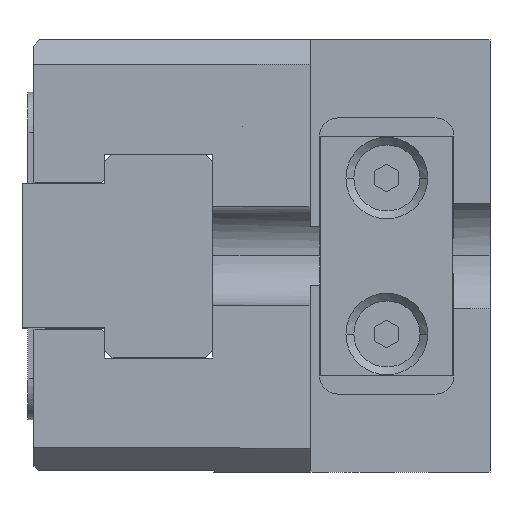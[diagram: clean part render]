
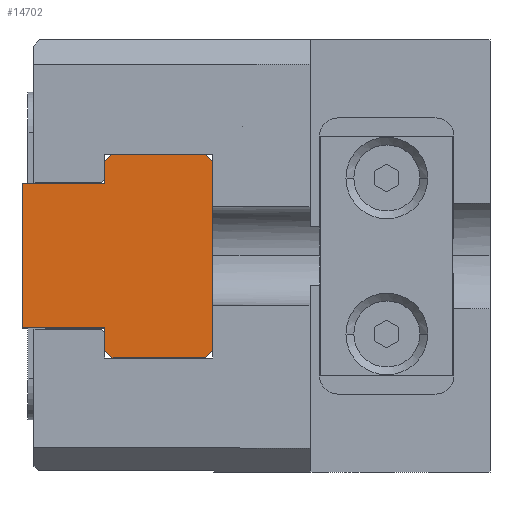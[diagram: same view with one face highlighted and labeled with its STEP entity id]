
A CAD part, left-side view. The second image highlights one B-rep face of the part: STEP entity #14702.
In plain terms, the highlighted planar face has unit normal (-1, 0, 0) as drawn and (0, 0, 1) by its records, which use the part's own axes.
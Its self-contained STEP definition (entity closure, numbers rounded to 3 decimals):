
#220 = ORIENTED_EDGE ( 'NONE', *, *, #5210, .T. ) ;
#419 = CARTESIAN_POINT ( 'NONE',  ( 8.5, 8.4, 30.9 ) ) ;
#552 = VECTOR ( 'NONE', #9409, 1000. ) ;
#933 = EDGE_CURVE ( 'NONE', #5751, #3708, #12646, .T. ) ;
#1147 = CARTESIAN_POINT ( 'NONE',  ( 7.9, 0., 30.9 ) ) ;
#1150 = VECTOR ( 'NONE', #15206, 1000. ) ;
#1327 = VERTEX_POINT ( 'NONE', #419 ) ;
#1662 = EDGE_CURVE ( 'NONE', #9197, #5751, #4536, .T. ) ;
#2155 = VERTEX_POINT ( 'NONE', #14802 ) ;
#2210 = DIRECTION ( 'NONE',  ( 0., 1., 0. ) ) ;
#2248 = EDGE_CURVE ( 'NONE', #16762, #9197, #11073, .T. ) ;
#2690 = LINE ( 'NONE', #12888, #4241 ) ;
#2699 = EDGE_CURVE ( 'NONE', #3708, #2155, #9756, .T. ) ;
#2720 = DIRECTION ( 'NONE',  ( -1., 0., 0. ) ) ;
#2775 = LINE ( 'NONE', #11910, #17228 ) ;
#2903 = VERTEX_POINT ( 'NONE', #17455 ) ;
#2918 = PLANE ( 'NONE',  #3100 ) ;
#3100 = AXIS2_PLACEMENT_3D ( 'NONE', #4564, #7329, #8798 ) ;
#3195 = CARTESIAN_POINT ( 'NONE',  ( 6., 15.9, 30.9 ) ) ;
#3319 = ORIENTED_EDGE ( 'NONE', *, *, #9569, .T. ) ;
#3708 = VERTEX_POINT ( 'NONE', #4011 ) ;
#4011 = CARTESIAN_POINT ( 'NONE',  ( -8.5, 0.6, 30.9 ) ) ;
#4210 = EDGE_CURVE ( 'NONE', #6245, #14968, #2690, .T. ) ;
#4241 = VECTOR ( 'NONE', #8650, 1000. ) ;
#4286 = VECTOR ( 'NONE', #2210, 1000. ) ;
#4536 = LINE ( 'NONE', #7083, #5416 ) ;
#4564 = CARTESIAN_POINT ( 'NONE',  ( 0., 0., 30.9 ) ) ;
#4646 = EDGE_CURVE ( 'NONE', #16787, #13835, #12550, .T. ) ;
#5105 = DIRECTION ( 'NONE',  ( 0., -1., 0. ) ) ;
#5210 = EDGE_CURVE ( 'NONE', #2903, #12124, #12090, .T. ) ;
#5416 = VECTOR ( 'NONE', #12895, 1000. ) ;
#5597 = DIRECTION ( 'NONE',  ( 0., -1., 0. ) ) ;
#5611 = DIRECTION ( 'NONE',  ( 0.707, -0.707, 0. ) ) ;
#5751 = VERTEX_POINT ( 'NONE', #13852 ) ;
#6066 = ORIENTED_EDGE ( 'NONE', *, *, #4646, .T. ) ;
#6082 = EDGE_CURVE ( 'NONE', #14968, #16762, #12482, .T. ) ;
#6245 = VERTEX_POINT ( 'NONE', #3195 ) ;
#6411 = DIRECTION ( 'NONE',  ( 1., 0., 0. ) ) ;
#6477 = ORIENTED_EDGE ( 'NONE', *, *, #2248, .T. ) ;
#6589 = CARTESIAN_POINT ( 'NONE',  ( -8.5, 8.4, 30.9 ) ) ;
#6830 = CARTESIAN_POINT ( 'NONE',  ( 6., 9., 30.9 ) ) ;
#6964 = VECTOR ( 'NONE', #5105, 1000. ) ;
#7014 = CARTESIAN_POINT ( 'NONE',  ( 7.9, 9., 30.9 ) ) ;
#7027 = VECTOR ( 'NONE', #12326, 1000. ) ;
#7083 = CARTESIAN_POINT ( 'NONE',  ( -7.9, 9., 30.9 ) ) ;
#7329 = DIRECTION ( 'NONE',  ( 0., 0., 1. ) ) ;
#8393 = VECTOR ( 'NONE', #15037, 1000. ) ;
#8445 = ORIENTED_EDGE ( 'NONE', *, *, #2699, .T. ) ;
#8650 = DIRECTION ( 'NONE',  ( -1., 0., 0. ) ) ;
#8798 = DIRECTION ( 'NONE',  ( 1., 0., 0. ) ) ;
#8983 = EDGE_CURVE ( 'NONE', #2155, #16787, #2775, .T. ) ;
#9197 = VERTEX_POINT ( 'NONE', #11097 ) ;
#9409 = DIRECTION ( 'NONE',  ( -0.707, 0.707, 0. ) ) ;
#9569 = EDGE_CURVE ( 'NONE', #13835, #1327, #14150, .T. ) ;
#9756 = LINE ( 'NONE', #9906, #10866 ) ;
#9860 = EDGE_CURVE ( 'NONE', #1327, #2903, #11723, .T. ) ;
#9906 = CARTESIAN_POINT ( 'NONE',  ( -8.5, 0.6, 30.9 ) ) ;
#10866 = VECTOR ( 'NONE', #5611, 1000. ) ;
#11073 = LINE ( 'NONE', #18078, #13279 ) ;
#11097 = CARTESIAN_POINT ( 'NONE',  ( -7.9, 9., 30.9 ) ) ;
#11723 = LINE ( 'NONE', #16550, #552 ) ;
#11885 = ORIENTED_EDGE ( 'NONE', *, *, #4210, .T. ) ;
#11910 = CARTESIAN_POINT ( 'NONE',  ( -7.9, 0., 30.9 ) ) ;
#12015 = ORIENTED_EDGE ( 'NONE', *, *, #9860, .T. ) ;
#12090 = LINE ( 'NONE', #7014, #1150 ) ;
#12124 = VERTEX_POINT ( 'NONE', #14643 ) ;
#12266 = CARTESIAN_POINT ( 'NONE',  ( -6., 15.9, 30.9 ) ) ;
#12326 = DIRECTION ( 'NONE',  ( 0., 1., 0. ) ) ;
#12482 = LINE ( 'NONE', #16906, #17282 ) ;
#12550 = LINE ( 'NONE', #1147, #8393 ) ;
#12646 = LINE ( 'NONE', #6589, #6964 ) ;
#12888 = CARTESIAN_POINT ( 'NONE',  ( 6., 15.9, 30.9 ) ) ;
#12895 = DIRECTION ( 'NONE',  ( -0.707, -0.707, 0. ) ) ;
#13044 = ORIENTED_EDGE ( 'NONE', *, *, #15066, .T. ) ;
#13162 = LINE ( 'NONE', #6830, #7027 ) ;
#13204 = EDGE_LOOP ( 'NONE', ( #16404, #17955, #8445, #17875, #6066, #3319, #12015, #220, #13044, #11885, #15158, #6477 ) ) ;
#13279 = VECTOR ( 'NONE', #2720, 1000. ) ;
#13353 = CARTESIAN_POINT ( 'NONE',  ( 8.5, 0.6, 30.9 ) ) ;
#13437 = CARTESIAN_POINT ( 'NONE',  ( -6., 9., 30.9 ) ) ;
#13835 = VERTEX_POINT ( 'NONE', #17758 ) ;
#13852 = CARTESIAN_POINT ( 'NONE',  ( -8.5, 8.4, 30.9 ) ) ;
#14150 = LINE ( 'NONE', #13353, #4286 ) ;
#14643 = CARTESIAN_POINT ( 'NONE',  ( 6., 9., 30.9 ) ) ;
#14702 = ADVANCED_FACE ( 'NONE', ( #16872 ), #2918, .T. ) ;
#14725 = CARTESIAN_POINT ( 'NONE',  ( 7.9, 0., 30.9 ) ) ;
#14802 = CARTESIAN_POINT ( 'NONE',  ( -7.9, 0., 30.9 ) ) ;
#14968 = VERTEX_POINT ( 'NONE', #12266 ) ;
#15037 = DIRECTION ( 'NONE',  ( 0.707, 0.707, 0. ) ) ;
#15066 = EDGE_CURVE ( 'NONE', #12124, #6245, #13162, .T. ) ;
#15158 = ORIENTED_EDGE ( 'NONE', *, *, #6082, .T. ) ;
#15206 = DIRECTION ( 'NONE',  ( -1., 0., 0. ) ) ;
#16404 = ORIENTED_EDGE ( 'NONE', *, *, #1662, .T. ) ;
#16550 = CARTESIAN_POINT ( 'NONE',  ( 8.5, 8.4, 30.9 ) ) ;
#16762 = VERTEX_POINT ( 'NONE', #13437 ) ;
#16787 = VERTEX_POINT ( 'NONE', #14725 ) ;
#16872 = FACE_OUTER_BOUND ( 'NONE', #13204, .T. ) ;
#16906 = CARTESIAN_POINT ( 'NONE',  ( -6., 15.9, 30.9 ) ) ;
#17228 = VECTOR ( 'NONE', #6411, 1000. ) ;
#17282 = VECTOR ( 'NONE', #5597, 1000. ) ;
#17455 = CARTESIAN_POINT ( 'NONE',  ( 7.9, 9., 30.9 ) ) ;
#17758 = CARTESIAN_POINT ( 'NONE',  ( 8.5, 0.6, 30.9 ) ) ;
#17875 = ORIENTED_EDGE ( 'NONE', *, *, #8983, .T. ) ;
#17955 = ORIENTED_EDGE ( 'NONE', *, *, #933, .T. ) ;
#18078 = CARTESIAN_POINT ( 'NONE',  ( -6., 9., 30.9 ) ) ;
